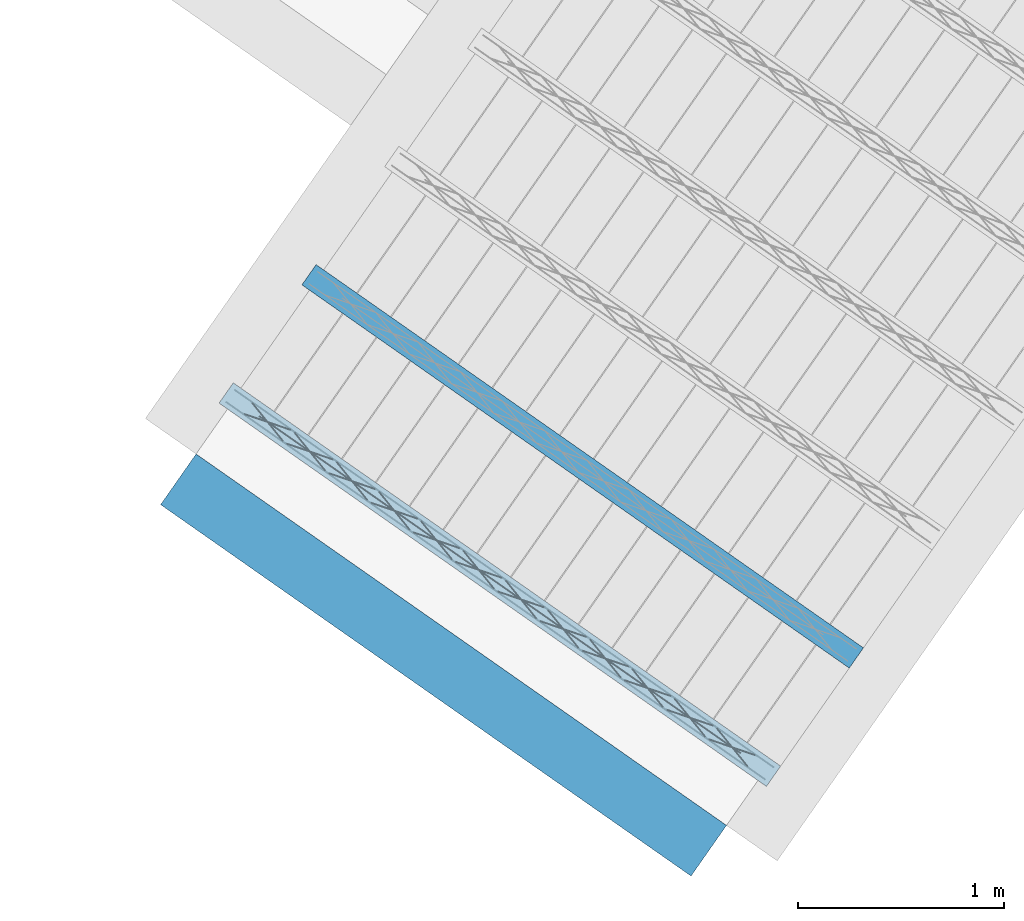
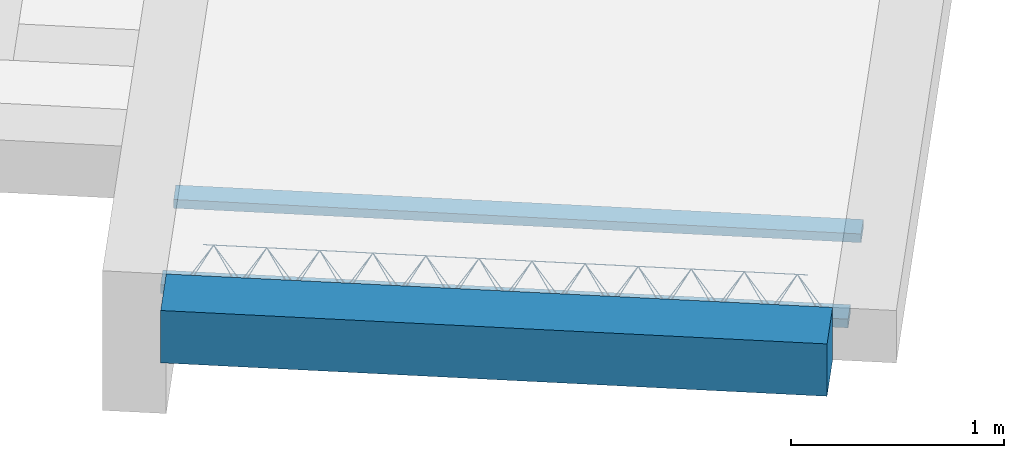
# One storey, part 2 of 46: 3 beams.
"""IFC2X3 building model written with IfcOpenShell, lengths in metres."""

from ifc_helpers import new_model, entity, si_unit, converted_unit, derived_unit, direction, frame, frame_2d, origin, origin_2d_with_axis, place, context, subcontext, project, spatial, rectangle, circle, extrude, material, type_object, element, save


model = new_model("IFC2X3")

# Units and contexts
model_context = context("Model", 3, precision=1e-05, world=origin(), true_north=direction((6.123031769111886e-17, 1.0)))
body_context = subcontext(model_context, "Body", "Model", "MODEL_VIEW")
ifc_project = project(units=[si_unit("LENGTHUNIT", "METRE"), si_unit("AREAUNIT", "SQUARE_METRE"), si_unit("VOLUMEUNIT", "CUBIC_METRE"), converted_unit("PLANEANGLEUNIT", "DEGREE", entity("IfcPlaneAngleMeasure", 0.017453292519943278), si_unit("PLANEANGLEUNIT", "RADIAN"), dimensions=[0, 0, 0, 0, 0, 0, 0]), si_unit("MASSUNIT", "GRAM", prefix="KILO"), derived_unit("MASSDENSITYUNIT", [(si_unit("MASSUNIT", "GRAM", prefix="KILO"), 1), (si_unit("LENGTHUNIT", "METRE"), -3)]), derived_unit("IONCONCENTRATIONUNIT", [(si_unit("MASSUNIT", "GRAM", prefix="KILO"), 1), (si_unit("LENGTHUNIT", "METRE"), -3)]), derived_unit("MOMENTOFINERTIAUNIT", [(si_unit("LENGTHUNIT", "METRE"), 4)]), si_unit("TIMEUNIT", "SECOND"), si_unit("FREQUENCYUNIT", "HERTZ"), si_unit("THERMODYNAMICTEMPERATUREUNIT", "DEGREE_CELSIUS"), derived_unit("THERMALTRANSMITTANCEUNIT", [(si_unit("MASSUNIT", "GRAM", prefix="KILO"), 1), (si_unit("THERMODYNAMICTEMPERATUREUNIT", "KELVIN"), -1), (si_unit("TIMEUNIT", "SECOND"), -3)]), derived_unit("THERMALCONDUCTANCEUNIT", [(si_unit("MASSUNIT", "GRAM", prefix="KILO"), 1), (si_unit("THERMODYNAMICTEMPERATUREUNIT", "KELVIN"), -1), (si_unit("TIMEUNIT", "SECOND"), -3), (si_unit("LENGTHUNIT", "METRE"), 1)]), derived_unit("VOLUMETRICFLOWRATEUNIT", [(si_unit("LENGTHUNIT", "METRE", prefix="DECI"), 3), (si_unit("TIMEUNIT", "SECOND"), -1)]), derived_unit("MASSFLOWRATEUNIT", [(si_unit("MASSUNIT", "GRAM", prefix="KILO"), 1), (si_unit("TIMEUNIT", "SECOND"), -1)]), derived_unit("ROTATIONALFREQUENCYUNIT", [(si_unit("TIMEUNIT", "SECOND"), -1)]), si_unit("ELECTRICCURRENTUNIT", "AMPERE"), si_unit("ELECTRICVOLTAGEUNIT", "VOLT"), si_unit("POWERUNIT", "WATT"), si_unit("FORCEUNIT", "NEWTON", prefix="KILO"), si_unit("ILLUMINANCEUNIT", "LUX"), si_unit("LUMINOUSFLUXUNIT", "LUMEN"), si_unit("LUMINOUSINTENSITYUNIT", "CANDELA"), si_unit("ENERGYUNIT", "JOULE"), derived_unit("USERDEFINED", [(si_unit("MASSUNIT", "GRAM", prefix="KILO"), -1), (si_unit("LENGTHUNIT", "METRE"), -2), (si_unit("TIMEUNIT", "SECOND"), 3), (si_unit("LUMINOUSFLUXUNIT", "LUMEN"), 1)]), derived_unit("USERDEFINED", [(si_unit("MASSUNIT", "GRAM", prefix="KILO"), 1), (si_unit("TIMEUNIT", "SECOND"), -3), (si_unit("LENGTHUNIT", "METRE"), 3), (si_unit("ELECTRICCURRENTUNIT", "AMPERE"), -2)]), derived_unit("SOUNDPOWERUNIT", [(si_unit("MASSUNIT", "GRAM", prefix="KILO"), 1), (si_unit("TIMEUNIT", "SECOND"), -3), (si_unit("LENGTHUNIT", "METRE"), 2)]), derived_unit("SOUNDPRESSUREUNIT", [(si_unit("MASSUNIT", "GRAM", prefix="KILO"), 1), (si_unit("LENGTHUNIT", "METRE"), -1), (si_unit("TIMEUNIT", "SECOND"), -2)]), derived_unit("LINEARVELOCITYUNIT", [(si_unit("LENGTHUNIT", "METRE"), 1), (si_unit("TIMEUNIT", "SECOND"), -1)]), si_unit("PRESSUREUNIT", "PASCAL"), derived_unit("USERDEFINED", [(si_unit("MASSUNIT", "GRAM", prefix="KILO"), 1), (si_unit("LENGTHUNIT", "METRE"), -2), (si_unit("TIMEUNIT", "SECOND"), -2)]), derived_unit("LINEARFORCEUNIT", [(si_unit("MASSUNIT", "GRAM", prefix="KILO"), 1), (si_unit("TIMEUNIT", "SECOND"), -2)]), derived_unit("PLANARFORCEUNIT", [(si_unit("MASSUNIT", "GRAM", prefix="KILO"), 1), (si_unit("LENGTHUNIT", "METRE"), -1), (si_unit("TIMEUNIT", "SECOND"), -2)]), derived_unit("SPECIFICHEATCAPACITYUNIT", [(si_unit("THERMODYNAMICTEMPERATUREUNIT", "KELVIN"), -1), (si_unit("LENGTHUNIT", "METRE"), 2), (si_unit("TIMEUNIT", "SECOND"), -2)]), derived_unit("HEATFLUXDENSITYUNIT", [(si_unit("MASSUNIT", "GRAM", prefix="KILO"), 1), (si_unit("TIMEUNIT", "SECOND"), -3)]), derived_unit("HEATINGVALUEUNIT", [(si_unit("LENGTHUNIT", "METRE"), 2), (si_unit("TIMEUNIT", "SECOND"), -2)]), derived_unit("VAPORPERMEABILITYUNIT", [(si_unit("LENGTHUNIT", "METRE"), -1), (si_unit("TIMEUNIT", "SECOND"), 1)]), derived_unit("DYNAMICVISCOSITYUNIT", [(si_unit("MASSUNIT", "GRAM", prefix="KILO"), 1), (si_unit("TIMEUNIT", "SECOND"), -1), (si_unit("LENGTHUNIT", "METRE"), -1)]), derived_unit("THERMALEXPANSIONCOEFFICIENTUNIT", [(si_unit("THERMODYNAMICTEMPERATUREUNIT", "KELVIN"), -1)]), derived_unit("MODULUSOFELASTICITYUNIT", [(si_unit("MASSUNIT", "GRAM", prefix="KILO"), 1), (si_unit("LENGTHUNIT", "METRE"), -1), (si_unit("TIMEUNIT", "SECOND"), -2)]), derived_unit("ISOTHERMALMOISTURECAPACITYUNIT", [(si_unit("MASSUNIT", "GRAM", prefix="KILO"), -1), (si_unit("LENGTHUNIT", "METRE"), 3)]), derived_unit("MOISTUREDIFFUSIVITYUNIT", [(si_unit("TIMEUNIT", "SECOND"), -1), (si_unit("LENGTHUNIT", "METRE"), 2)]), derived_unit("MASSPERLENGTHUNIT", [(si_unit("MASSUNIT", "GRAM", prefix="KILO"), 1), (si_unit("LENGTHUNIT", "METRE"), -1)]), derived_unit("THERMALRESISTANCEUNIT", [(si_unit("MASSUNIT", "GRAM", prefix="KILO"), -1), (si_unit("TIMEUNIT", "SECOND"), 3), (si_unit("THERMODYNAMICTEMPERATUREUNIT", "KELVIN"), 1)]), derived_unit("ACCELERATIONUNIT", [(si_unit("LENGTHUNIT", "METRE"), 1), (si_unit("TIMEUNIT", "SECOND"), -2)]), derived_unit("ANGULARVELOCITYUNIT", [(si_unit("TIMEUNIT", "SECOND"), -1), (si_unit("PLANEANGLEUNIT", "RADIAN"), 1)]), derived_unit("LINEARSTIFFNESSUNIT", [(si_unit("MASSUNIT", "GRAM", prefix="KILO"), 1), (si_unit("TIMEUNIT", "SECOND"), -2)]), derived_unit("WARPINGCONSTANTUNIT", [(si_unit("LENGTHUNIT", "METRE"), 6)]), derived_unit("LINEARMOMENTUNIT", [(si_unit("MASSUNIT", "GRAM", prefix="KILO"), 1), (si_unit("LENGTHUNIT", "METRE"), 1), (si_unit("TIMEUNIT", "SECOND"), -2)]), derived_unit("TORQUEUNIT", [(si_unit("MASSUNIT", "GRAM", prefix="KILO"), 1), (si_unit("LENGTHUNIT", "METRE"), 2), (si_unit("TIMEUNIT", "SECOND"), -2)])], contexts=[model_context])

# Site, building, storey
site_placement = place(None, origin())
site = spatial("IfcSite", under=ifc_project, at=site_placement, Name="Default", CompositionType="ELEMENT")
building_placement = place(site_placement, origin())
building = spatial("IfcBuilding", under=site, at=building_placement, CompositionType="ELEMENT")
storey_placement = place(building_placement, frame((0.0, 0.0, 99.52000000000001)))
storey = spatial("IfcBuildingStorey", under=building, at=storey_placement, Name="F1", CompositionType="ELEMENT", Elevation=99.52000000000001)

# Beams
beam_type = type_object("IfcBeamType", Name="Vigueta 1 (Paño 4) (Mf = 14.15)", PredefinedType="JOIST")
beam_1_placement = place(storey_placement, origin())
element("IfcBeam", 1, at=beam_1_placement, inside=storey, type_object=beam_type, Name="Vigueta 1 (Paño 4) (Mf = 14.15)", ObjectType="Mf = 14.15", context=body_context, shape_type="SweptSolid", body=[
    extrude(rectangle(XDim=3.24, YDim=0.12000000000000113, at=frame_2d((-1.1102230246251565e-16, -8.118505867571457e-16), x_axis=(1.0, 0.0))), frame((5.782445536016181, -4.719993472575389, 0.2000000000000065), z_axis=(0.0, 0.0, 1.0), x_axis=(0.8191520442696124, -0.5735764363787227, 0.0)), (0.0, 0.0, 1.0), 0.04999999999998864),
    extrude(circle(Radius=0.0025, at=origin_2d_with_axis()), frame((4.454430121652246, -3.8340549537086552, 0.22500000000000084), z_axis=(0.8191520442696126, -0.5735764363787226, 0.0), x_axis=(-0.5735764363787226, -0.8191520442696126, 0.0)), (0.0, 0.0, 1.0), 3.191999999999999),
    extrude(circle(Radius=0.0025, at=origin_2d_with_axis()), frame((4.615153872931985, -3.902647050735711, 0.4500000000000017), z_axis=(0.8191520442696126, -0.5735764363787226, 0.0), x_axis=(-0.5735764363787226, -0.8191520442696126, 0.0)), (0.0, 0.0, 1.0), 2.849999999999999),
    extrude(circle(Radius=0.0025, at=origin_2d_with_axis()), frame((6.990524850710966, -5.609847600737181, 0.22500000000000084), z_axis=(-0.3145304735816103, 0.389334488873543, 0.8657304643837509), x_axis=(-0.7778747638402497, -0.6284193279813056, 0.0)), (0.0, 0.0, 1.0), 0.2598961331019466),
    extrude(circle(Radius=0.0025, at=origin_2d_with_axis()), frame((6.785736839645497, -5.466453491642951, 0.22499999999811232), z_axis=(0.47343050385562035, -0.1624017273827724, 0.8657304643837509), x_axis=(-0.3244721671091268, -0.9458952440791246, 0.0)), (0.0, 0.0, 1.0), 0.25989613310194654),
    extrude(circle(Radius=0.0025, at=origin_2d_with_axis()), frame((6.785736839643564, -5.4664534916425, 0.22500000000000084), z_axis=(-0.3145304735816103, 0.389334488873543, 0.8657304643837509), x_axis=(-0.7778747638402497, -0.6284193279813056, 0.0)), (0.0, 0.0, 1.0), 0.2598961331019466),
    extrude(circle(Radius=0.0025, at=origin_2d_with_axis()), frame((6.580948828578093, -5.323059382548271, 0.22499999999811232), z_axis=(0.47343050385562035, -0.1624017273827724, 0.8657304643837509), x_axis=(-0.3244721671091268, -0.9458952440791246, 0.0)), (0.0, 0.0, 1.0), 0.25989613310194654),
    extrude(circle(Radius=0.0025, at=origin_2d_with_axis()), frame((6.580948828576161, -5.323059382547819, 0.22500000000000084), z_axis=(-0.3145304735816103, 0.389334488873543, 0.8657304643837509), x_axis=(-0.7778747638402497, -0.6284193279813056, 0.0)), (0.0, 0.0, 1.0), 0.2598961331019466),
    extrude(circle(Radius=0.0025, at=origin_2d_with_axis()), frame((6.37616081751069, -5.1796652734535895, 0.22499999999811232), z_axis=(0.47343050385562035, -0.1624017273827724, 0.8657304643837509), x_axis=(-0.3244721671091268, -0.9458952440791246, 0.0)), (0.0, 0.0, 1.0), 0.25989613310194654),
    extrude(circle(Radius=0.0025, at=origin_2d_with_axis()), frame((6.376160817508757, -5.179665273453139, 0.22500000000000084), z_axis=(-0.3145304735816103, 0.389334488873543, 0.8657304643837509), x_axis=(-0.7778747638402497, -0.6284193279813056, 0.0)), (0.0, 0.0, 1.0), 0.2598961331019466),
    extrude(circle(Radius=0.0025, at=origin_2d_with_axis()), frame((6.171372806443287, -5.036271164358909, 0.22499999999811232), z_axis=(0.47343050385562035, -0.1624017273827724, 0.8657304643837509), x_axis=(-0.3244721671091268, -0.9458952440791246, 0.0)), (0.0, 0.0, 1.0), 0.25989613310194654),
    extrude(circle(Radius=0.0025, at=origin_2d_with_axis()), frame((6.171372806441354, -5.036271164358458, 0.22500000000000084), z_axis=(-0.3145304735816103, 0.389334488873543, 0.8657304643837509), x_axis=(-0.7778747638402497, -0.6284193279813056, 0.0)), (0.0, 0.0, 1.0), 0.2598961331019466),
    extrude(circle(Radius=0.0025, at=origin_2d_with_axis()), frame((5.966584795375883, -4.892877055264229, 0.22499999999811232), z_axis=(0.47343050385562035, -0.1624017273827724, 0.8657304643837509), x_axis=(-0.3244721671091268, -0.9458952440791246, 0.0)), (0.0, 0.0, 1.0), 0.25989613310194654),
    extrude(circle(Radius=0.0025, at=origin_2d_with_axis()), frame((5.966584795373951, -4.892877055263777, 0.22500000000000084), z_axis=(-0.3145304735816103, 0.389334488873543, 0.8657304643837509), x_axis=(-0.7778747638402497, -0.6284193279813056, 0.0)), (0.0, 0.0, 1.0), 0.2598961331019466),
    extrude(circle(Radius=0.0025, at=origin_2d_with_axis()), frame((5.76179678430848, -4.749482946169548, 0.22499999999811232), z_axis=(0.47343050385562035, -0.1624017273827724, 0.8657304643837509), x_axis=(-0.3244721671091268, -0.9458952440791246, 0.0)), (0.0, 0.0, 1.0), 0.25989613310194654),
    extrude(circle(Radius=0.0025, at=origin_2d_with_axis()), frame((5.761796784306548, -4.749482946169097, 0.22500000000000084), z_axis=(-0.3145304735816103, 0.389334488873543, 0.8657304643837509), x_axis=(-0.7778747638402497, -0.6284193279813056, 0.0)), (0.0, 0.0, 1.0), 0.2598961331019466),
    extrude(circle(Radius=0.0025, at=origin_2d_with_axis()), frame((5.557008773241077, -4.606088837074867, 0.22499999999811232), z_axis=(0.47343050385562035, -0.1624017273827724, 0.8657304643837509), x_axis=(-0.3244721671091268, -0.9458952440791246, 0.0)), (0.0, 0.0, 1.0), 0.25989613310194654),
    extrude(circle(Radius=0.0025, at=origin_2d_with_axis()), frame((5.557008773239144, -4.606088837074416, 0.22500000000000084), z_axis=(-0.3145304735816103, 0.389334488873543, 0.8657304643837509), x_axis=(-0.7778747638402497, -0.6284193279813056, 0.0)), (0.0, 0.0, 1.0), 0.2598961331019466),
    extrude(circle(Radius=0.0025, at=origin_2d_with_axis()), frame((5.352220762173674, -4.462694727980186, 0.22499999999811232), z_axis=(0.47343050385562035, -0.1624017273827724, 0.8657304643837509), x_axis=(-0.3244721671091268, -0.9458952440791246, 0.0)), (0.0, 0.0, 1.0), 0.25989613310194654),
    extrude(circle(Radius=0.0025, at=origin_2d_with_axis()), frame((5.352220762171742, -4.462694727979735, 0.22500000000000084), z_axis=(-0.3145304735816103, 0.389334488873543, 0.8657304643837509), x_axis=(-0.7778747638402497, -0.6284193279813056, 0.0)), (0.0, 0.0, 1.0), 0.2598961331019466),
    extrude(circle(Radius=0.0025, at=origin_2d_with_axis()), frame((5.147432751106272, -4.319300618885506, 0.22499999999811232), z_axis=(0.47343050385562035, -0.1624017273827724, 0.8657304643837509), x_axis=(-0.3244721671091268, -0.9458952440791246, 0.0)), (0.0, 0.0, 1.0), 0.25989613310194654),
    extrude(circle(Radius=0.0025, at=origin_2d_with_axis()), frame((5.147432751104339, -4.3193006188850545, 0.22500000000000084), z_axis=(-0.3145304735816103, 0.389334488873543, 0.8657304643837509), x_axis=(-0.7778747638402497, -0.6284193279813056, 0.0)), (0.0, 0.0, 1.0), 0.2598961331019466),
    extrude(circle(Radius=0.0025, at=origin_2d_with_axis()), frame((4.942644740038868, -4.175906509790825, 0.22499999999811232), z_axis=(0.47343050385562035, -0.1624017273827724, 0.8657304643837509), x_axis=(-0.3244721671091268, -0.9458952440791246, 0.0)), (0.0, 0.0, 1.0), 0.25989613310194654),
    extrude(circle(Radius=0.0025, at=origin_2d_with_axis()), frame((4.942644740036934, -4.175906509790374, 0.22500000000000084), z_axis=(-0.3145304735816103, 0.389334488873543, 0.8657304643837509), x_axis=(-0.7778747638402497, -0.6284193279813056, 0.0)), (0.0, 0.0, 1.0), 0.2598961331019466),
    extrude(circle(Radius=0.0025, at=origin_2d_with_axis()), frame((4.737856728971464, -4.032512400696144, 0.22499999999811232), z_axis=(0.47343050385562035, -0.1624017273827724, 0.8657304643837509), x_axis=(-0.3244721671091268, -0.9458952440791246, 0.0)), (0.0, 0.0, 1.0), 0.25989613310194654),
    extrude(circle(Radius=0.0025, at=origin_2d_with_axis()), frame((4.737856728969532, -4.032512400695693, 0.22500000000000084), z_axis=(-0.3145304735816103, 0.389334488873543, 0.8657304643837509), x_axis=(-0.7778747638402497, -0.6284193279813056, 0.0)), (0.0, 0.0, 1.0), 0.2598961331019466),
    extrude(circle(Radius=0.0025, at=origin_2d_with_axis()), frame((4.533068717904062, -3.8891182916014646, 0.22499999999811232), z_axis=(0.47343050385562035, -0.1624017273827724, 0.8657304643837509), x_axis=(-0.3244721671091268, -0.9458952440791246, 0.0)), (0.0, 0.0, 1.0), 0.25989613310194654),
    extrude(circle(Radius=0.0025, at=origin_2d_with_axis()), frame((4.495727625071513, -3.7750760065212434, 0.22500000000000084), z_axis=(0.8191520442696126, -0.5735764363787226, 0.0), x_axis=(-0.5735764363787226, -0.8191520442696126, 0.0)), (0.0, 0.0, 1.0), 3.191999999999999),
    extrude(circle(Radius=0.0025, at=origin_2d_with_axis()), frame((7.0318223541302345, -5.550868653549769, 0.22500000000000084), z_axis=(-0.47343050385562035, 0.1624017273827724, 0.8657304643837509), x_axis=(-0.3244721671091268, -0.9458952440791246, 0.0)), (0.0, 0.0, 1.0), 0.25989613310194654),
    extrude(circle(Radius=0.0025, at=origin_2d_with_axis()), frame((6.827034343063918, -5.407474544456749, 0.22499999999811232), z_axis=(0.3145304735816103, -0.389334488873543, 0.8657304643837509), x_axis=(-0.7778747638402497, -0.6284193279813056, 0.0)), (0.0, 0.0, 1.0), 0.2598961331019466),
    extrude(circle(Radius=0.0025, at=origin_2d_with_axis()), frame((6.827034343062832, -5.407474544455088, 0.22500000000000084), z_axis=(-0.47343050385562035, 0.1624017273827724, 0.8657304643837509), x_axis=(-0.3244721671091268, -0.9458952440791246, 0.0)), (0.0, 0.0, 1.0), 0.25989613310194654),
    extrude(circle(Radius=0.0025, at=origin_2d_with_axis()), frame((6.6222463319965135, -5.264080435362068, 0.22499999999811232), z_axis=(0.3145304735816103, -0.389334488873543, 0.8657304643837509), x_axis=(-0.7778747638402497, -0.6284193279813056, 0.0)), (0.0, 0.0, 1.0), 0.2598961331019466),
    extrude(circle(Radius=0.0025, at=origin_2d_with_axis()), frame((6.622246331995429, -5.264080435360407, 0.22500000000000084), z_axis=(-0.47343050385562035, 0.1624017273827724, 0.8657304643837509), x_axis=(-0.3244721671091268, -0.9458952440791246, 0.0)), (0.0, 0.0, 1.0), 0.25989613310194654),
    extrude(circle(Radius=0.0025, at=origin_2d_with_axis()), frame((6.417458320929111, -5.120686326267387, 0.22499999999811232), z_axis=(0.3145304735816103, -0.389334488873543, 0.8657304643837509), x_axis=(-0.7778747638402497, -0.6284193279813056, 0.0)), (0.0, 0.0, 1.0), 0.2598961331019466),
    extrude(circle(Radius=0.0025, at=origin_2d_with_axis()), frame((6.4174583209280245, -5.1206863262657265, 0.22500000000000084), z_axis=(-0.47343050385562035, 0.1624017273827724, 0.8657304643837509), x_axis=(-0.3244721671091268, -0.9458952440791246, 0.0)), (0.0, 0.0, 1.0), 0.25989613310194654),
    extrude(circle(Radius=0.0025, at=origin_2d_with_axis()), frame((6.212670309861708, -4.977292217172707, 0.22499999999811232), z_axis=(0.3145304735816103, -0.389334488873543, 0.8657304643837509), x_axis=(-0.7778747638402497, -0.6284193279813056, 0.0)), (0.0, 0.0, 1.0), 0.2598961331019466),
    extrude(circle(Radius=0.0025, at=origin_2d_with_axis()), frame((6.212670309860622, -4.977292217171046, 0.22500000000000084), z_axis=(-0.47343050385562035, 0.1624017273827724, 0.8657304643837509), x_axis=(-0.3244721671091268, -0.9458952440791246, 0.0)), (0.0, 0.0, 1.0), 0.25989613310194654),
    extrude(circle(Radius=0.0025, at=origin_2d_with_axis()), frame((6.0078822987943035, -4.833898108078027, 0.22499999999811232), z_axis=(0.3145304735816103, -0.389334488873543, 0.8657304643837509), x_axis=(-0.7778747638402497, -0.6284193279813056, 0.0)), (0.0, 0.0, 1.0), 0.2598961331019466),
    extrude(circle(Radius=0.0025, at=origin_2d_with_axis()), frame((6.007882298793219, -4.833898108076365, 0.22500000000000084), z_axis=(-0.47343050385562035, 0.1624017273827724, 0.8657304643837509), x_axis=(-0.3244721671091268, -0.9458952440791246, 0.0)), (0.0, 0.0, 1.0), 0.25989613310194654),
    extrude(circle(Radius=0.0025, at=origin_2d_with_axis()), frame((5.803094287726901, -4.690503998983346, 0.22499999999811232), z_axis=(0.3145304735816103, -0.389334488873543, 0.8657304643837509), x_axis=(-0.7778747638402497, -0.6284193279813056, 0.0)), (0.0, 0.0, 1.0), 0.2598961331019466),
    extrude(circle(Radius=0.0025, at=origin_2d_with_axis()), frame((5.803094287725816, -4.690503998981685, 0.22500000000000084), z_axis=(-0.47343050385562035, 0.1624017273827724, 0.8657304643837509), x_axis=(-0.3244721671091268, -0.9458952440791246, 0.0)), (0.0, 0.0, 1.0), 0.25989613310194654),
    extrude(circle(Radius=0.0025, at=origin_2d_with_axis()), frame((5.598306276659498, -4.547109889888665, 0.22499999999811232), z_axis=(0.3145304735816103, -0.389334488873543, 0.8657304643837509), x_axis=(-0.7778747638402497, -0.6284193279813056, 0.0)), (0.0, 0.0, 1.0), 0.2598961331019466),
    extrude(circle(Radius=0.0025, at=origin_2d_with_axis()), frame((5.598306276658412, -4.547109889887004, 0.22500000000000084), z_axis=(-0.47343050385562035, 0.1624017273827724, 0.8657304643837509), x_axis=(-0.3244721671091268, -0.9458952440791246, 0.0)), (0.0, 0.0, 1.0), 0.25989613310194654),
    extrude(circle(Radius=0.0025, at=origin_2d_with_axis()), frame((5.393518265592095, -4.403715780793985, 0.22499999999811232), z_axis=(0.3145304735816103, -0.389334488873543, 0.8657304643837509), x_axis=(-0.7778747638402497, -0.6284193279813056, 0.0)), (0.0, 0.0, 1.0), 0.2598961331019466),
    extrude(circle(Radius=0.0025, at=origin_2d_with_axis()), frame((5.393518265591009, -4.403715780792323, 0.22500000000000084), z_axis=(-0.47343050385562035, 0.1624017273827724, 0.8657304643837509), x_axis=(-0.3244721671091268, -0.9458952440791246, 0.0)), (0.0, 0.0, 1.0), 0.25989613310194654),
    extrude(circle(Radius=0.0025, at=origin_2d_with_axis()), frame((5.1887302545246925, -4.260321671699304, 0.22499999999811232), z_axis=(0.3145304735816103, -0.389334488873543, 0.8657304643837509), x_axis=(-0.7778747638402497, -0.6284193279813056, 0.0)), (0.0, 0.0, 1.0), 0.2598961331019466),
    extrude(circle(Radius=0.0025, at=origin_2d_with_axis()), frame((5.188730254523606, -4.260321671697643, 0.22500000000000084), z_axis=(-0.47343050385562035, 0.1624017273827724, 0.8657304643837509), x_axis=(-0.3244721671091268, -0.9458952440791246, 0.0)), (0.0, 0.0, 1.0), 0.25989613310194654),
    extrude(circle(Radius=0.0025, at=origin_2d_with_axis()), frame((4.983942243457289, -4.116927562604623, 0.22499999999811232), z_axis=(0.3145304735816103, -0.389334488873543, 0.8657304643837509), x_axis=(-0.7778747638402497, -0.6284193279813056, 0.0)), (0.0, 0.0, 1.0), 0.2598961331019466),
    extrude(circle(Radius=0.0025, at=origin_2d_with_axis()), frame((4.983942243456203, -4.116927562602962, 0.22500000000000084), z_axis=(-0.47343050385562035, 0.1624017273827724, 0.8657304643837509), x_axis=(-0.3244721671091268, -0.9458952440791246, 0.0)), (0.0, 0.0, 1.0), 0.25989613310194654),
    extrude(circle(Radius=0.0025, at=origin_2d_with_axis()), frame((4.779154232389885, -3.9735334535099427, 0.22499999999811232), z_axis=(0.3145304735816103, -0.389334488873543, 0.8657304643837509), x_axis=(-0.7778747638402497, -0.6284193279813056, 0.0)), (0.0, 0.0, 1.0), 0.2598961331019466),
    extrude(circle(Radius=0.0025, at=origin_2d_with_axis()), frame((4.779154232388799, -3.9735334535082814, 0.22500000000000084), z_axis=(-0.47343050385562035, 0.1624017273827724, 0.8657304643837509), x_axis=(-0.3244721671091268, -0.9458952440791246, 0.0)), (0.0, 0.0, 1.0), 0.25989613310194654),
    extrude(circle(Radius=0.0025, at=origin_2d_with_axis()), frame((4.5743662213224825, -3.8301393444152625, 0.22499999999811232), z_axis=(0.3145304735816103, -0.389334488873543, 0.8657304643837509), x_axis=(-0.7778747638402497, -0.6284193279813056, 0.0)), (0.0, 0.0, 1.0), 0.2598961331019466),
])
ifc_material = material(Name="Hormigón armado")
beam_2_placement = place(storey_placement, origin())
element("IfcBeam", 2, at=beam_2_placement, inside=storey, material=ifc_material, Name="238280", context=body_context, shape_type="SweptSolid", body=[
    extrude(rectangle(XDim=0.04999999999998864, YDim=0.11999999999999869, at=frame_2d((0.0, -2.2898349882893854e-16), x_axis=(1.0, 0.0))), frame((4.856922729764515, -3.2173932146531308, 0.22500000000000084), z_axis=(0.8191520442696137, -0.5735764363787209, 0.0), x_axis=(0.0, 0.0, -1.0)), (0.0, 0.0, 1.0), 3.240000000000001),
])
beam_3_placement = place(storey_placement, origin())
element("IfcBeam", 3, at=beam_3_placement, inside=storey, material=ifc_material, Name="Viga 11 (30x30)", ObjectType="30x30", context=body_context, shape_type="SweptSolid", body=[
    extrude(rectangle(XDim=0.3000000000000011, YDim=0.30000000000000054, at=frame_2d((0.0, 1.6653345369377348e-16), x_axis=(1.0, 0.0))), frame((4.223354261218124, -4.209395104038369, 0.3500000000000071), z_axis=(0.819152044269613, -0.573576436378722, 0.0), x_axis=(0.0, 0.0, 1.0)), (0.0, 0.0, 1.0), 3.140000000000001),
])

save(model, "model.ifc")
